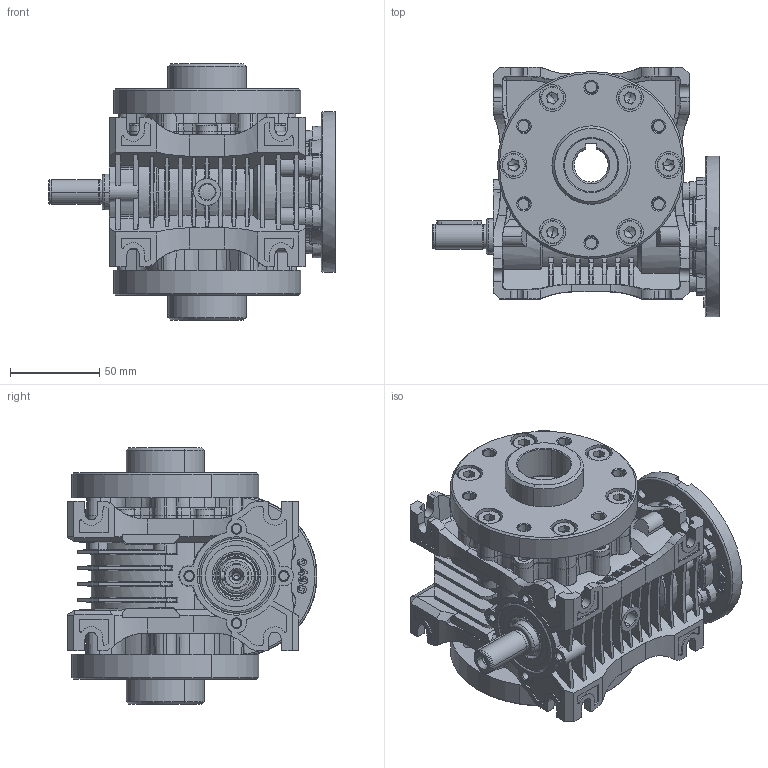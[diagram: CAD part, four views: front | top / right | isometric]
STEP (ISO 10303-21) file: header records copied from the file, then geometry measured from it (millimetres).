
FILE_DESCRIPTION (( 'STEP AP203' ), '1' );
FILE_NAME ('MRP-40_90_11-WBS_SO-1_3D.STEP', '2024-10-23T05:21:00', ( '' ), ( '' ), 'SwSTEP 2.0', 'SolidWorks 2022', '' );
FILE_SCHEMA (( 'CONFIG_CONTROL_DESIGN' ));
Length unit declared in the file: millimetre
Products named in the file (1): MRP-40_90_11-WBS_SO-1_3D
Bounding box: 161 x 140.06 x 144 mm (x, y, z)
Volume: 978342.7 mm3; surface area: 228822.7 mm2
Topology: 1 solids, 62 shells, 2979 faces, 7796 edges, 4991 vertices
Faces by surface type: plane 1176, cone 910, cylinder 528, bspline 240, torus 125
Entity records: 101152 total; most frequent: CARTESIAN_POINT 30365, ORIENTED_EDGE 15472, DIRECTION 14191, EDGE_CURVE 7736, AXIS2_PLACEMENT_3D 5373, VERTEX_POINT 4991, VECTOR 3445, LINE 3445
